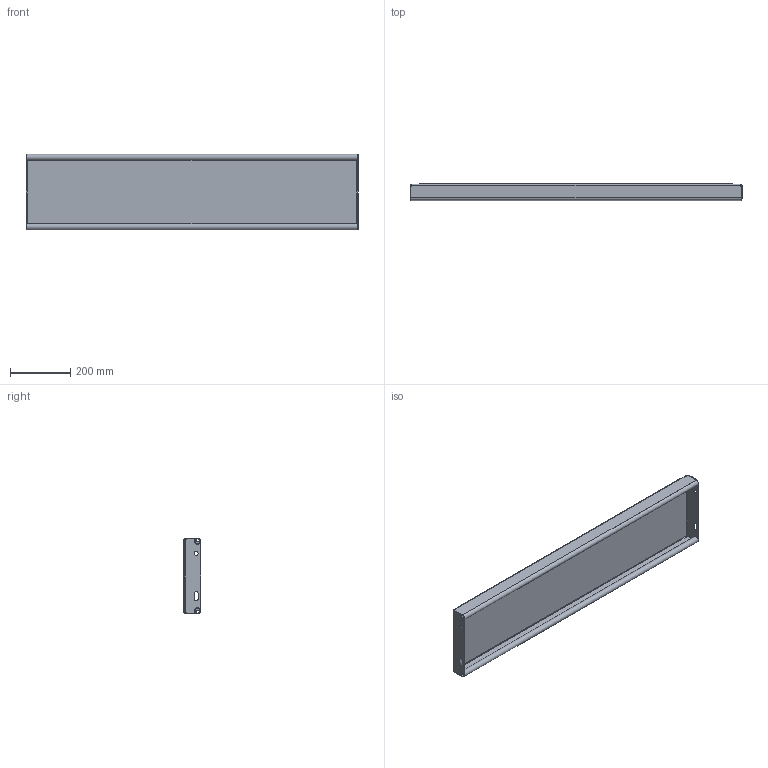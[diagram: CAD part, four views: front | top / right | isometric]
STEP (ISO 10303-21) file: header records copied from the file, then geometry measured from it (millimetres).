
FILE_DESCRIPTION (( 'STEP AP214' ), '1' );
FILE_NAME ('OPTIMO-Tread-Achil-O2-1100x250x45x2-st240-F100360100_plain.STEP', '2021-03-16T13:46:32', ( '' ), ( '' ), 'SwSTEP 2.0', 'SolidWorks 2021', '' );
FILE_SCHEMA (( 'AUTOMOTIVE_DESIGN' ));
Length unit declared in the file: millimetre
Products named in the file (1): OPTIMO-Tread-Achil-O2-1100x250x45x2-st240-F100360100_plain
Bounding box: 1100 x 57 x 250 mm (x, y, z)
Volume: 1742598.6 mm3; surface area: 1003938.4 mm2
Topology: 1 solids, 1 shells, 248 faces, 640 edges, 412 vertices
Faces by surface type: plane 173, bspline 39, cylinder 36
Entity records: 9924 total; most frequent: CARTESIAN_POINT 4092, ORIENTED_EDGE 1280, DIRECTION 1022, EDGE_CURVE 640, LINE 490, VECTOR 490, VERTEX_POINT 412, EDGE_LOOP 274
